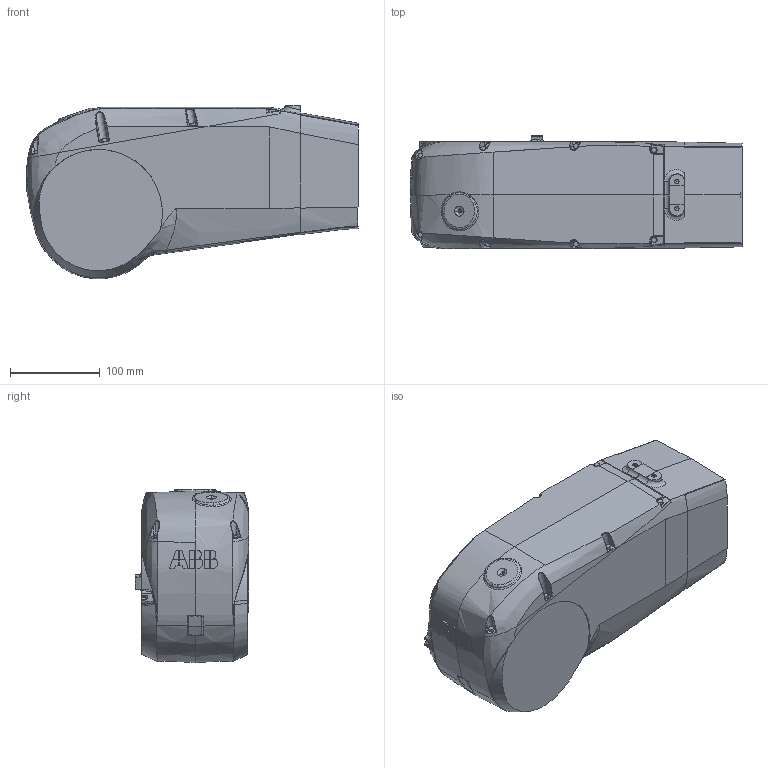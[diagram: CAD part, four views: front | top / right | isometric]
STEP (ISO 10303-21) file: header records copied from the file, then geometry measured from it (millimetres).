
FILE_DESCRIPTION (( 'STEP AP214' ), '1' );
FILE_NAME ('IRB1200H_5-90_IRC5_Link3_rev0.step', '2022-01-17T08:43:57', ( '' ), ( '' ), 'SwSTEP 2.0', 'SolidWorks 2020', '' );
FILE_SCHEMA (( 'AUTOMOTIVE_DESIGN' ));
Length unit declared in the file: millimetre
Products named in the file (1): IRB1200H_5-90_IRC5_Link3_rev0
Bounding box: 369.21 x 126 x 192.81 mm (x, y, z)
Volume: 6396404.6 mm3; surface area: 219617.3 mm2
Topology: 1 solids, 8 shells, 517 faces, 1330 edges, 834 vertices
Faces by surface type: bspline 193, plane 179, cylinder 94, cone 28, torus 22, sphere 1
Entity records: 51059 total; most frequent: CARTESIAN_POINT 39162, ORIENTED_EDGE 2620, DIRECTION 1483, EDGE_CURVE 1310, VERTEX_POINT 834, B_SPLINE_CURVE_WITH_KNOTS 660, AXIS2_PLACEMENT_3D 562, EDGE_LOOP 542
